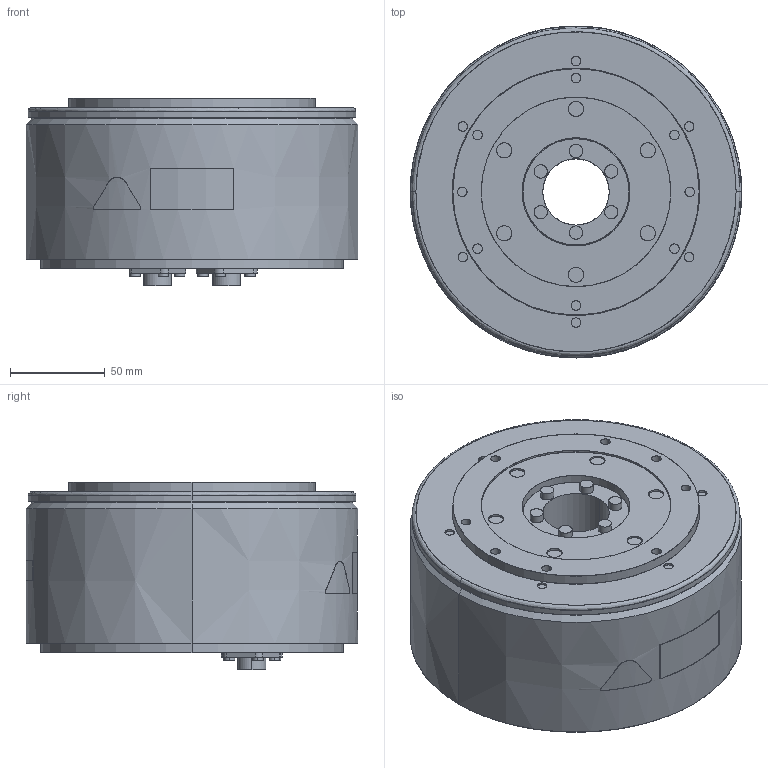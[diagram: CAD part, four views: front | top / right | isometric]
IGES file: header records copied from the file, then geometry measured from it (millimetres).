
Start section: SolidWorks IGES file using analytic representation for surfaces
Bounding box: 175 x 175.2 x 99.1 mm (x, y, z)
Surface area: 111727.3 mm2 (no closed solid volume)
Topology: 0 solids, 0 shells, 294 faces, 5906 edges, 5906 vertices
Faces by surface type: revolution 165, bspline 129
